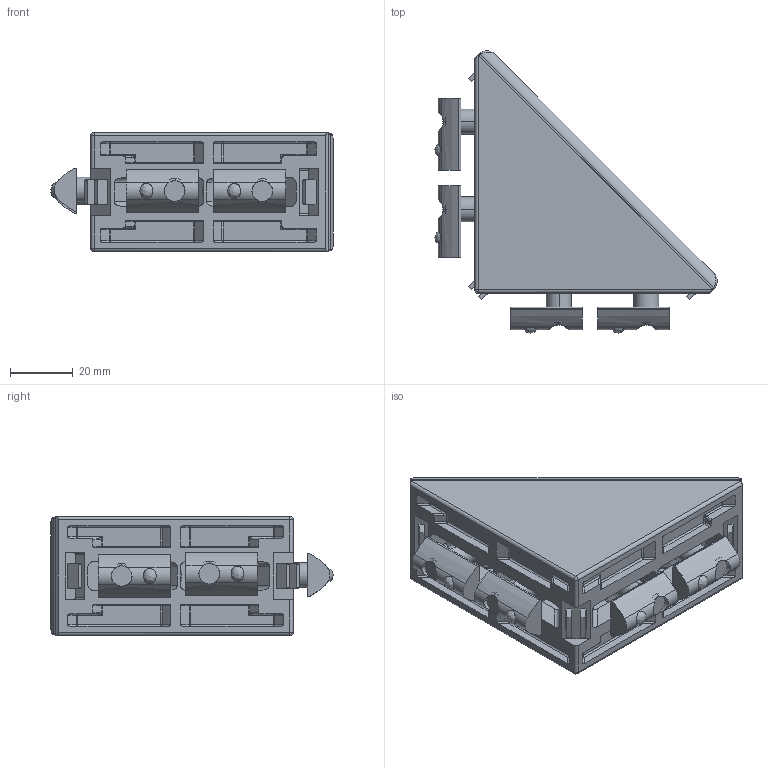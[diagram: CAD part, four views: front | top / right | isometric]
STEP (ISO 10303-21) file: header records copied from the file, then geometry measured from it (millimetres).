
FILE_DESCRIPTION (( 'STEP AP214' ), '1' );
FILE_NAME ('30011_WINSTZ8080ZN.STEP', '2016-11-30T08:46:02', ( '' ), ( '' ), 'SwSTEP 2.0', 'SolidWorks 2016', '' );
FILE_SCHEMA (( 'AUTOMOTIVE_DESIGN' ));
Length unit declared in the file: millimetre
Products named in the file (6): 10487-01-0000-00_sicherungsscheibem8; 10226-01-0000-00_lks m8x18; 10625-01-0000-00_winkel 80x80; 10358-01-0000-00_nutenstein m8; 10632-01-0000-00_winkel-abdeckkappe 80x80; 30011_WINSTZ8080ZN
Assembly tree (14 placements, depth 2):
  30011_WINSTZ8080ZN
    10625-01-0000-00_winkel 80x80
    10632-01-0000-00_winkel-abdeckkappe 80x80
    10358-01-0000-00_nutenstein m8  x4
    10226-01-0000-00_lks m8x18  x4
    10487-01-0000-00_sicherungsscheibem8  x4
Bounding box: 90.18 x 90.18 x 38 mm (x, y, z)
Volume: 64732 mm3; surface area: 41158.9 mm2
Topology: 14 solids, 14 shells, 688 faces, 1723 edges, 1064 vertices
Faces by surface type: plane 320, cylinder 227, bspline 117, torus 16, cone 8
Entity records: 27428 total; most frequent: CARTESIAN_POINT 8434, ORIENTED_EDGE 2840, DIRECTION 2390, EDGE_CURVE 1420, LINE 914, VECTOR 914, VERTEX_POINT 890, AXIS2_PLACEMENT_3D 738
